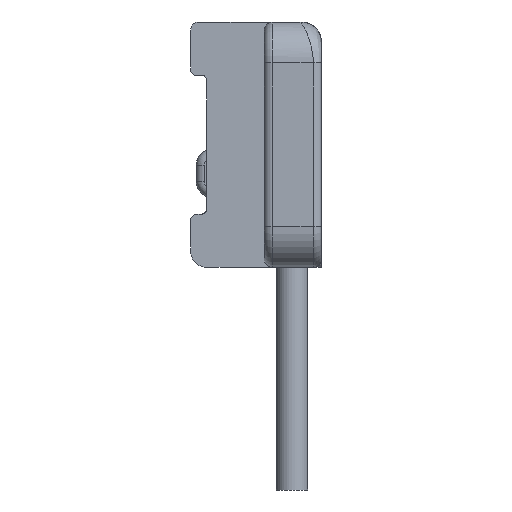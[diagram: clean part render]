
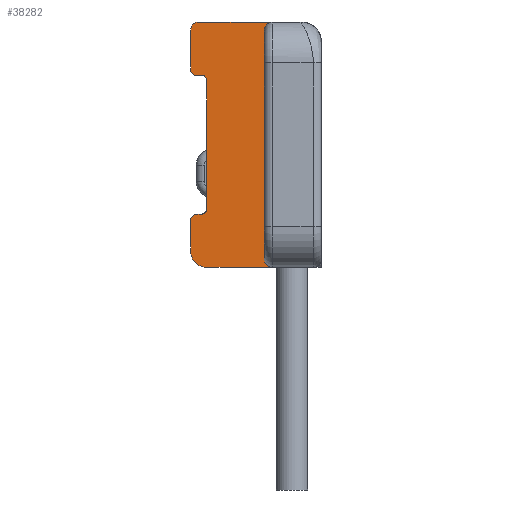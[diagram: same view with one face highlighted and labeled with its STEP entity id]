
A CAD part, left-side view. The second image highlights one B-rep face of the part: STEP entity #38282.
In plain terms, the highlighted planar face has unit normal (-1, 0, 0).
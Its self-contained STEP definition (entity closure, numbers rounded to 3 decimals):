
#980 = VECTOR ( 'NONE', #1030, 1000. ) ;
#1030 = DIRECTION ( 'NONE',  ( 0., -0.707, 0.707 ) ) ;
#1043 = LINE ( 'NONE', #1044, #980 ) ;
#1044 = CARTESIAN_POINT ( 'NONE',  ( -10.3, 1.6, -0.9 ) ) ;
#1435 = CARTESIAN_POINT ( 'NONE',  ( -10.3, 1.55, -0.85 ) ) ;
#8870 = CARTESIAN_POINT ( 'NONE',  ( -10.3, 1.6, -0.9 ) ) ;
#8906 = CARTESIAN_POINT ( 'NONE',  ( -10.3, 1.4, 0.78 ) ) ;
#8998 = DIRECTION ( 'NONE',  ( 0., 0., 1. ) ) ;
#8999 = VECTOR ( 'NONE', #8998, 1000. ) ;
#9000 = CARTESIAN_POINT ( 'NONE',  ( -10.3, 0.7, -1.5 ) ) ;
#9001 = LINE ( 'NONE', #9000, #8999 ) ;
#9081 = DIRECTION ( 'NONE',  ( 0., 0., -1. ) ) ;
#9082 = VECTOR ( 'NONE', #9081, 1000. ) ;
#9083 = CARTESIAN_POINT ( 'NONE',  ( -10.3, 1.4, 0.78 ) ) ;
#9084 = LINE ( 'NONE', #9083, #9082 ) ;
#9185 = CARTESIAN_POINT ( 'NONE',  ( -10.3, 1.4, -0.78 ) ) ;
#11052 = CARTESIAN_POINT ( 'NONE',  ( -10.3, 0.7, -1.4 ) ) ;
#12269 = CARTESIAN_POINT ( 'NONE',  ( -10.3, 0.7, 1.4 ) ) ;
#13100 = EDGE_CURVE ( 'NONE', #24551, #13366, #1043, .T. ) ;
#13366 = VERTEX_POINT ( 'NONE', #1435 ) ;
#15286 = CARTESIAN_POINT ( 'NONE',  ( -10.3, 1.6, -1.3 ) ) ;
#15287 = CARTESIAN_POINT ( 'NONE',  ( -10.3, 1.4, -1.5 ) ) ;
#15806 = DIRECTION ( 'NONE',  ( 0., 0., 1. ) ) ;
#15807 = DIRECTION ( 'NONE',  ( 1., 0., 0. ) ) ;
#15808 = CARTESIAN_POINT ( 'NONE',  ( -10.3, 1.4, -1.3 ) ) ;
#15816 = CIRCLE ( 'NONE', #15818, 0.2 ) ;
#15818 = AXIS2_PLACEMENT_3D ( 'NONE', #15808, #15807, #15806 ) ;
#16919 = DIRECTION ( 'NONE',  ( 0., 0., 1. ) ) ;
#16922 = VECTOR ( 'NONE', #16919, 1000. ) ;
#16923 = CARTESIAN_POINT ( 'NONE',  ( -10.3, 1.6, -1.5 ) ) ;
#16924 = LINE ( 'NONE', #16923, #16922 ) ;
#16925 = CARTESIAN_POINT ( 'NONE',  ( -10.3, 1.6, 1.4 ) ) ;
#16935 = AXIS2_PLACEMENT_3D ( 'NONE', #16963, #17009, #17007 ) ;
#16938 = DIRECTION ( 'NONE',  ( 0., -1., 0. ) ) ;
#16939 = VECTOR ( 'NONE', #16938, 1000. ) ;
#16940 = CARTESIAN_POINT ( 'NONE',  ( -10.3, 1.6, -1.5 ) ) ;
#16941 = LINE ( 'NONE', #16940, #16939 ) ;
#16942 = FACE_OUTER_BOUND ( 'NONE', #38284, .T. ) ;
#16943 = DIRECTION ( 'NONE',  ( 0., 1., 0. ) ) ;
#16944 = VECTOR ( 'NONE', #16943, 1000. ) ;
#16945 = CARTESIAN_POINT ( 'NONE',  ( -10.3, 1.6, -0.85 ) ) ;
#16946 = LINE ( 'NONE', #16945, #16944 ) ;
#16963 = CARTESIAN_POINT ( 'NONE',  ( -10.3, 1.6, -1.5 ) ) ;
#16964 = DIRECTION ( 'NONE',  ( 0., -1., 0. ) ) ;
#16965 = VECTOR ( 'NONE', #16964, 1000. ) ;
#16966 = CARTESIAN_POINT ( 'NONE',  ( -10.3, 1.6, 0.85 ) ) ;
#16973 = DIRECTION ( 'NONE',  ( -1., 0., 0. ) ) ;
#16977 = LINE ( 'NONE', #16966, #16965 ) ;
#16980 = DIRECTION ( 'NONE',  ( 0., 0., 1. ) ) ;
#16981 = VECTOR ( 'NONE', #16980, 1000. ) ;
#16982 = CARTESIAN_POINT ( 'NONE',  ( -10.3, 1.6, -1.5 ) ) ;
#16983 = LINE ( 'NONE', #16982, #16981 ) ;
#16984 = CARTESIAN_POINT ( 'NONE',  ( -10.3, 0.6, 1.4 ) ) ;
#16998 = AXIS2_PLACEMENT_3D ( 'NONE', #17099, #17077, #17090 ) ;
#17007 = DIRECTION ( 'NONE',  ( 0., 0., 1. ) ) ;
#17009 = DIRECTION ( 'NONE',  ( 1., 0., 0. ) ) ;
#17013 = PLANE ( 'NONE',  #16935 ) ;
#17016 = DIRECTION ( 'NONE',  ( 0., 0., 1. ) ) ;
#17020 = CIRCLE ( 'NONE', #17026, 0.1 ) ;
#17026 = AXIS2_PLACEMENT_3D ( 'NONE', #16984, #16973, #17016 ) ;
#17028 = CARTESIAN_POINT ( 'NONE',  ( -10.3, 0.6, 1.5 ) ) ;
#17029 = CIRCLE ( 'NONE', #16998, 0.1 ) ;
#17035 = CARTESIAN_POINT ( 'NONE',  ( -10.3, 1.5, 1.5 ) ) ;
#17037 = CIRCLE ( 'NONE', #17082, 0.07 ) ;
#17075 = LINE ( 'NONE', #17098, #17097 ) ;
#17076 = CARTESIAN_POINT ( 'NONE',  ( -10.3, 1.47, -0.85 ) ) ;
#17077 = DIRECTION ( 'NONE',  ( 1., 0., 0. ) ) ;
#17080 = DIRECTION ( 'NONE',  ( 0., 0., 1. ) ) ;
#17081 = DIRECTION ( 'NONE',  ( 1., 0., 0. ) ) ;
#17082 = AXIS2_PLACEMENT_3D ( 'NONE', #17086, #17081, #17080 ) ;
#17086 = CARTESIAN_POINT ( 'NONE',  ( -10.3, 1.47, 0.78 ) ) ;
#17090 = DIRECTION ( 'NONE',  ( 0., 0., 1. ) ) ;
#17091 = CARTESIAN_POINT ( 'NONE',  ( -10.3, 1.47, 0.85 ) ) ;
#17096 = DIRECTION ( 'NONE',  ( 0., -1., 0. ) ) ;
#17097 = VECTOR ( 'NONE', #17096, 1000. ) ;
#17098 = CARTESIAN_POINT ( 'NONE',  ( -10.3, 1.6, 1.5 ) ) ;
#17099 = CARTESIAN_POINT ( 'NONE',  ( -10.3, 1.5, 1.4 ) ) ;
#17118 = DIRECTION ( 'NONE',  ( 0., 0., -1. ) ) ;
#17119 = DIRECTION ( 'NONE',  ( 1., 0., 0. ) ) ;
#17120 = CARTESIAN_POINT ( 'NONE',  ( -10.3, 1.47, -0.78 ) ) ;
#17121 = AXIS2_PLACEMENT_3D ( 'NONE', #17120, #17119, #17118 ) ;
#17122 = CIRCLE ( 'NONE', #17121, 0.07 ) ;
#17538 = CARTESIAN_POINT ( 'NONE',  ( -10.3, 0.6, -1.5 ) ) ;
#17772 = CARTESIAN_POINT ( 'NONE',  ( -10.3, 0.6, -1.4 ) ) ;
#17773 = CIRCLE ( 'NONE', #17834, 0.1 ) ;
#17832 = DIRECTION ( 'NONE',  ( 0., 0., 1. ) ) ;
#17833 = DIRECTION ( 'NONE',  ( -1., 0., 0. ) ) ;
#17834 = AXIS2_PLACEMENT_3D ( 'NONE', #17772, #17833, #17832 ) ;
#24551 = VERTEX_POINT ( 'NONE', #8870 ) ;
#24858 = VERTEX_POINT ( 'NONE', #8906 ) ;
#25337 = EDGE_CURVE ( 'NONE', #44030, #44331, #9001, .T. ) ;
#25649 = EDGE_CURVE ( 'NONE', #24858, #25865, #9084, .T. ) ;
#25865 = VERTEX_POINT ( 'NONE', #9185 ) ;
#27659 = CARTESIAN_POINT ( 'NONE',  ( -10.3, 1.55, 0.85 ) ) ;
#27682 = DIRECTION ( 'NONE',  ( 0., 0.707, 0.707 ) ) ;
#27683 = VECTOR ( 'NONE', #27682, 1000. ) ;
#27684 = LINE ( 'NONE', #27703, #27683 ) ;
#27703 = CARTESIAN_POINT ( 'NONE',  ( -10.3, 1.55, 0.85 ) ) ;
#27837 = CARTESIAN_POINT ( 'NONE',  ( -10.3, 1.6, 0.9 ) ) ;
#34220 = VERTEX_POINT ( 'NONE', #27659 ) ;
#34225 = EDGE_CURVE ( 'NONE', #34220, #34318, #27684, .T. ) ;
#34318 = VERTEX_POINT ( 'NONE', #27837 ) ;
#37257 = VERTEX_POINT ( 'NONE', #15287 ) ;
#37260 = VERTEX_POINT ( 'NONE', #15286 ) ;
#37594 = EDGE_CURVE ( 'NONE', #37257, #37260, #15816, .T. ) ;
#38215 = ORIENTED_EDGE ( 'NONE', *, *, #34225, .F. ) ;
#38225 = VERTEX_POINT ( 'NONE', #16925 ) ;
#38227 = EDGE_CURVE ( 'NONE', #34318, #38225, #16924, .T. ) ;
#38230 = ORIENTED_EDGE ( 'NONE', *, *, #38227, .F. ) ;
#38253 = ORIENTED_EDGE ( 'NONE', *, *, #38255, .T. ) ;
#38254 = ORIENTED_EDGE ( 'NONE', *, *, #13100, .F. ) ;
#38255 = EDGE_CURVE ( 'NONE', #38313, #13366, #16946, .T. ) ;
#38257 = EDGE_CURVE ( 'NONE', #37257, #38542, #16941, .T. ) ;
#38265 = ORIENTED_EDGE ( 'NONE', *, *, #37594, .F. ) ;
#38267 = EDGE_CURVE ( 'NONE', #37260, #24551, #16983, .T. ) ;
#38268 = ORIENTED_EDGE ( 'NONE', *, *, #38267, .F. ) ;
#38269 = ORIENTED_EDGE ( 'NONE', *, *, #38684, .F. ) ;
#38271 = EDGE_CURVE ( 'NONE', #34220, #38324, #16977, .T. ) ;
#38274 = ORIENTED_EDGE ( 'NONE', *, *, #38278, .F. ) ;
#38275 = ORIENTED_EDGE ( 'NONE', *, *, #38325, .T. ) ;
#38276 = ORIENTED_EDGE ( 'NONE', *, *, #25649, .T. ) ;
#38278 = EDGE_CURVE ( 'NONE', #38279, #44331, #17020, .T. ) ;
#38279 = VERTEX_POINT ( 'NONE', #17028 ) ;
#38281 = ORIENTED_EDGE ( 'NONE', *, *, #38271, .T. ) ;
#38282 = ADVANCED_FACE ( 'NONE', ( #16942 ), #17013, .F. ) ;
#38284 = EDGE_LOOP ( 'NONE', ( #38230, #38215, #38281, #38275, #38276, #38312, #38253, #38254, #38268, #38265, #38314, #38269, #38317, #38274, #38315, #38320 ) ) ;
#38312 = ORIENTED_EDGE ( 'NONE', *, *, #38326, .T. ) ;
#38313 = VERTEX_POINT ( 'NONE', #17076 ) ;
#38314 = ORIENTED_EDGE ( 'NONE', *, *, #38257, .T. ) ;
#38315 = ORIENTED_EDGE ( 'NONE', *, *, #38318, .F. ) ;
#38316 = VERTEX_POINT ( 'NONE', #17035 ) ;
#38317 = ORIENTED_EDGE ( 'NONE', *, *, #25337, .T. ) ;
#38318 = EDGE_CURVE ( 'NONE', #38316, #38279, #17075, .T. ) ;
#38319 = EDGE_CURVE ( 'NONE', #38225, #38316, #17029, .T. ) ;
#38320 = ORIENTED_EDGE ( 'NONE', *, *, #38319, .F. ) ;
#38324 = VERTEX_POINT ( 'NONE', #17091 ) ;
#38325 = EDGE_CURVE ( 'NONE', #38324, #24858, #17037, .T. ) ;
#38326 = EDGE_CURVE ( 'NONE', #25865, #38313, #17122, .T. ) ;
#38542 = VERTEX_POINT ( 'NONE', #17538 ) ;
#38684 = EDGE_CURVE ( 'NONE', #44030, #38542, #17773, .T. ) ;
#44030 = VERTEX_POINT ( 'NONE', #11052 ) ;
#44331 = VERTEX_POINT ( 'NONE', #12269 ) ;
